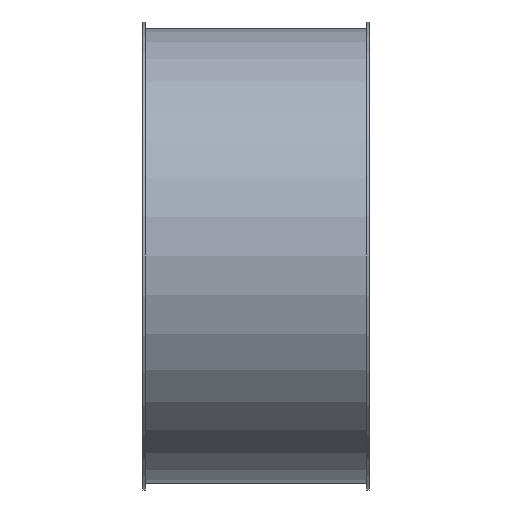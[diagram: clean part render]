
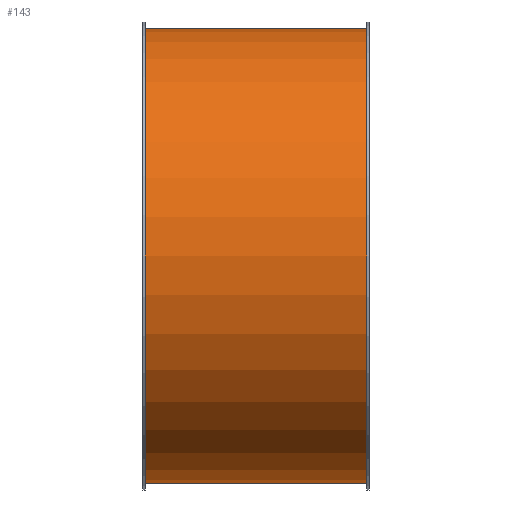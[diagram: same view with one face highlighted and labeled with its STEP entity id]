
A CAD part, front view. The second image highlights one B-rep face of the part: STEP entity #143.
In plain terms, the highlighted cylindrical face has radius 201 mm (diameter 402 mm), a full revolution.
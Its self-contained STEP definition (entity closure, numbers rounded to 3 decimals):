
#112=CARTESIAN_POINT('',(166.119,2.817,0.0));
#113=VERTEX_POINT('',#112);
#114=CARTESIAN_POINT('',(166.119,203.817,0.0));
#115=DIRECTION('',(-1.0,0.0,0.0));
#116=DIRECTION('',(0.0,-1.0,0.0));
#117=AXIS2_PLACEMENT_3D('',#114,#115,#116);
#118=CIRCLE('',#117,201.0);
#119=EDGE_CURVE('',#113,#113,#118,.T.);
#124=CARTESIAN_POINT('',(68.119,203.817,0.0));
#125=DIRECTION('',(-1.0,0.0,0.0));
#126=DIRECTION('',(0.0,-1.0,0.0));
#127=AXIS2_PLACEMENT_3D('',#124,#125,#126);
#128=CYLINDRICAL_SURFACE('',#127,201.0);
#129=CARTESIAN_POINT('',(-29.881,2.817,0.0));
#130=VERTEX_POINT('',#129);
#131=CARTESIAN_POINT('',(-29.881,203.817,0.0));
#132=DIRECTION('',(-1.0,0.0,0.0));
#133=DIRECTION('',(0.0,-1.0,0.0));
#134=AXIS2_PLACEMENT_3D('',#131,#132,#133);
#135=CIRCLE('',#134,201.0);
#136=EDGE_CURVE('',#130,#130,#135,.T.);
#137=ORIENTED_EDGE('',*,*,#136,.F.);
#138=EDGE_LOOP('',(#137));
#139=FACE_OUTER_BOUND('',#138,.T.);
#140=ORIENTED_EDGE('',*,*,#119,.T.);
#141=EDGE_LOOP('',(#140));
#142=FACE_BOUND('',#141,.T.);
#143=ADVANCED_FACE('',(#139,#142),#128,.T.);
